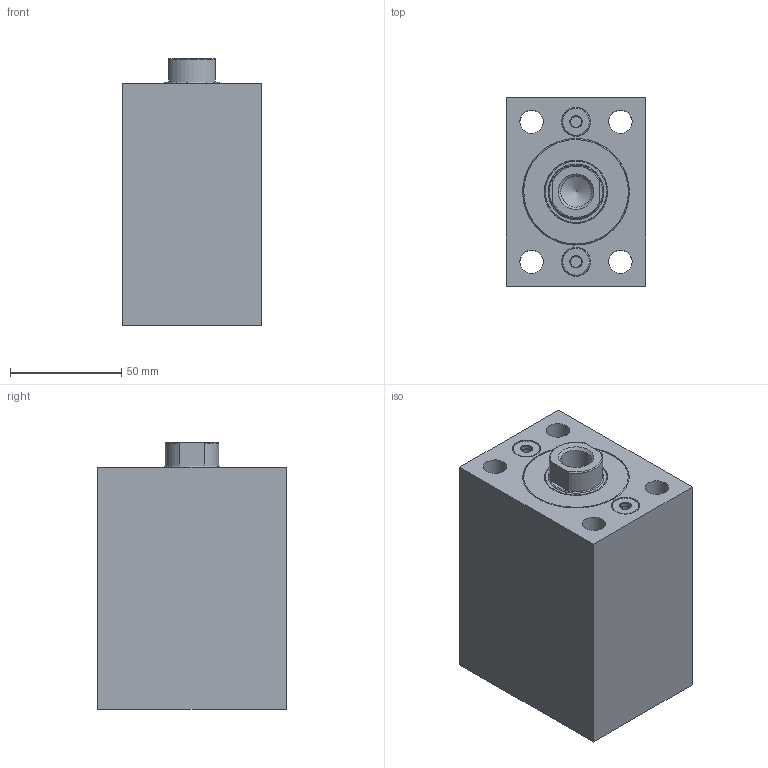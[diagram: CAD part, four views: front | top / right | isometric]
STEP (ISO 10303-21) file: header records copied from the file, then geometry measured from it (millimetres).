
FILE_DESCRIPTION( ( 'STEP AP203' ), '1' );
FILE_NAME( 'C:/Users/SAYKO.ltd/Desktop/SBZ100/07/SBZ100-40/SBZ100.40__FORM_07_STROKE_35__H2_49_POS_0_.stp', ' ', ( ' ' ), ( ' ' ), 'PSStep 15.0.47', 'PARTsolutions', ' ' );
FILE_SCHEMA( ( 'CONFIG_CONTROL_DESIGN' ) );
Length unit declared in the file: millimetre
Products named in the file (5): SBZ100.40  FORM=07 STROKE=35 (H2=49 POS=0); HI_SBZ10040  FORM=07 STROKE=35 H2=49 -C; HI_SBZ10040  FORM=07 STROKE=35-R; HI_SBZ100.40-C; HI_SBZ100.40-S
Assembly tree (4 placements, depth 2):
  SBZ100.40  FORM=07 STROKE=35 (H2=49 POS=0)
    HI_SBZ10040  FORM=07 STROKE=35 H2=49 -C
    HI_SBZ10040  FORM=07 STROKE=35-R
    HI_SBZ100.40-C
    HI_SBZ100.40-S
Bounding box: 63 x 85 x 120 mm (x, y, z)
Volume: 509897.3 mm3; surface area: 98165.7 mm2
Topology: 4 solids, 4 shells, 74 faces, 136 edges, 87 vertices
Faces by surface type: plane 33, cylinder 28, cone 10, torus 3
Full cylindrical faces by diameter (mm): 5 x4, 10.5 x4, 13 x2, 13.835 x1, 18 x4, 25 x4, 28.5 x1, 33 x2, 40 x2, 48 x2
Entity records: 3979 total; most frequent: CARTESIAN_POINT 2649, ORIENTED_EDGE 188, DIRECTION 178, EDGE_LOOP 140, FACE_OUTER_BOUND 101, EDGE_CURVE 94, VERTEX_POINT 83, AXIS2_PLACEMENT_3D 81
